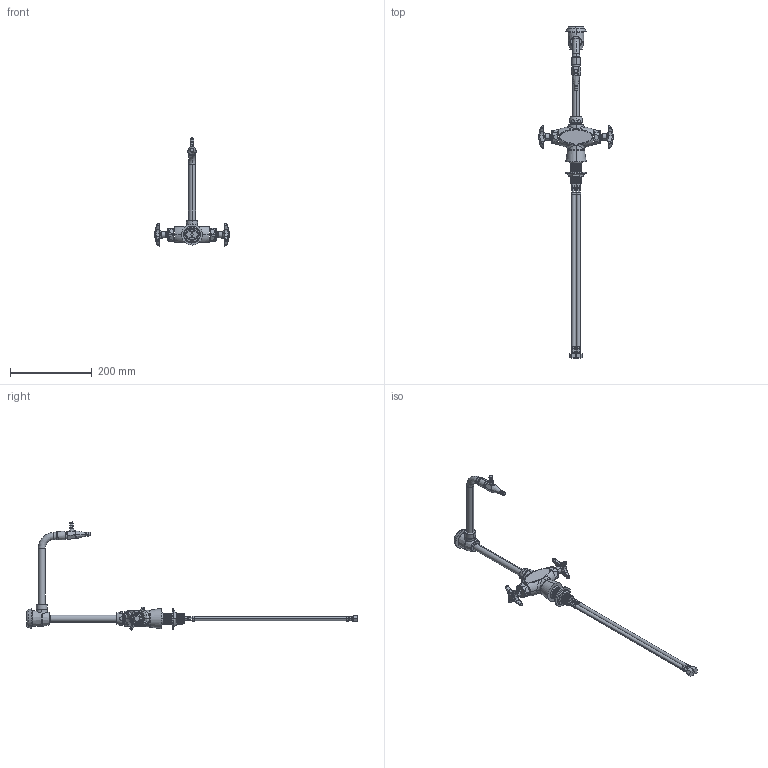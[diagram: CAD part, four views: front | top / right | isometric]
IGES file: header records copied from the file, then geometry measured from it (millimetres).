
Start section:  PTC IGES file: LWM1-B32-F.igs
Global section: file name: LWM1-B32-F.igs; native system: Creo Parametric by PTC Inc.; preprocessor: 2014500; author: usch_engrender; organization: Unknown; date: 20160210.122806; units: inch
Bounding box: 185.16 x 810.88 x 263.84 mm (x, y, z)
Surface area: 141087.3 mm2 (no closed solid volume)
Topology: 0 solids, 65 shells, 666 faces, 1896 edges, 1261 vertices
Faces by surface type: bspline 412, revolution 254
